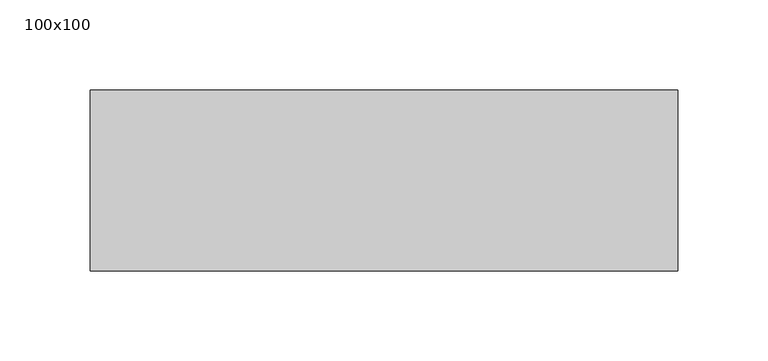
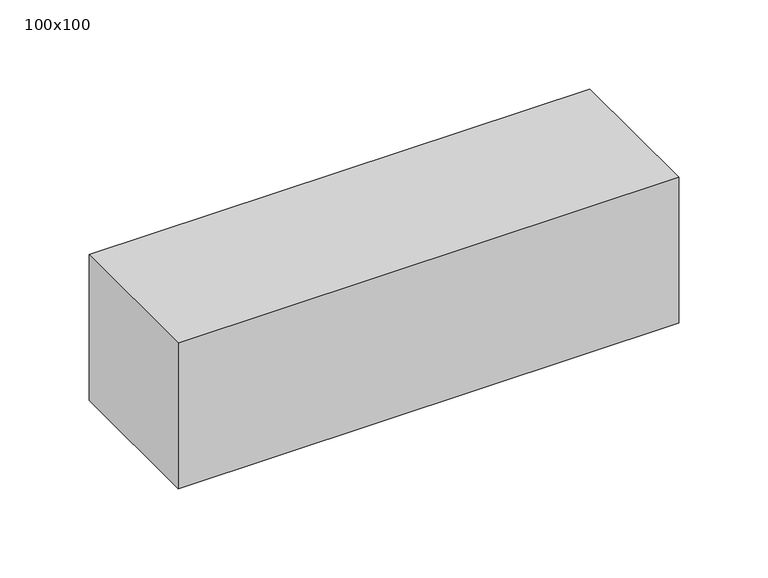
"""IFC4 building model written with IfcOpenShell, lengths in millimetres: beam geometry, Graded Timber : 100x100."""

from ifc_helpers import new_model, si_unit, frame, origin, place, context, project, spatial, polyline, outline, extrude, source, transform, mapped, element, save


def beam_100x100_20a64efb(model_context):
    return source(origin(), model_context, "Body", "SweptSolid", [
        extrude(outline(polyline([(162.5, 50.0), (162.5, -50.0), (-162.5, -50.0), (-162.5, 50.0), (162.5, 50.0)])), frame((0.0, 0.0, -50.0), z_axis=(0.0, 0.0, 1.0), x_axis=(1.0, 0.0, 0.0)), (0.0, 0.0, 1.0), 100.0),
    ])


if __name__ == "__main__":
    model = new_model("IFC4")
    model_context = context("Model", 3, world=origin())
    ifc_project = project(units=[si_unit("LENGTHUNIT", "METRE", prefix="MILLI")], contexts=[model_context])
    site = spatial("IfcSite", under=ifc_project)
    building = spatial("IfcBuilding", under=site)
    placement = place(None, origin())
    beam_100x100_shape = beam_100x100_20a64efb(model_context)
    element("IfcBeam", 1, ObjectType="Graded Timber : 100x100", at=placement, inside=building, context=model_context, shape_type="MappedRepresentation", body=[
        mapped(beam_100x100_shape, transform((0.0, 0.0, 0.0), x_axis=(1.0, 0.0, 0.0), y_axis=(0.0, 1.0, 0.0), z_axis=(0.0, 0.0, 1.0))),
    ])
    save(model, "model.ifc")
